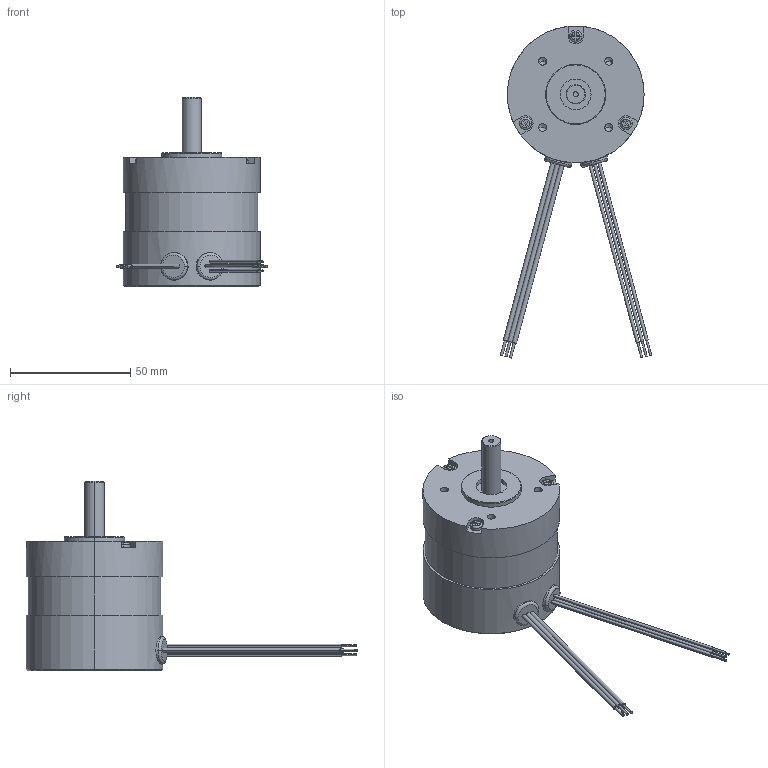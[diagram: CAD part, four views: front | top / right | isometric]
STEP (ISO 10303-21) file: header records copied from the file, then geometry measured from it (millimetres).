
FILE_DESCRIPTION (( 'STEP AP214' ), '1' );
FILE_NAME ('BLWR232S.STEP', '2013-07-24T21:43:10', ( '' ), ( '' ), 'SwSTEP 2.0', 'SolidWorks 2013', '' );
FILE_SCHEMA (( 'AUTOMOTIVE_DESIGN' ));
Length unit declared in the file: inch
Products named in the file (1): BLWR232S
Bounding box: 62.81 x 137.75 x 78.49 mm (x, y, z)
Volume: 135388.8 mm3; surface area: 19835.8 mm2
Topology: 1 solids, 1 shells, 277 faces, 677 edges, 429 vertices
Faces by surface type: plane 129, cylinder 106, cone 28, torus 14
Entity records: 12006 total; most frequent: CARTESIAN_POINT 1792, DIRECTION 1427, ORIENTED_EDGE 1326, EDGE_CURVE 663, AXIS2_PLACEMENT_3D 556, VERTEX_POINT 429, EDGE_LOOP 318, VECTOR 315
